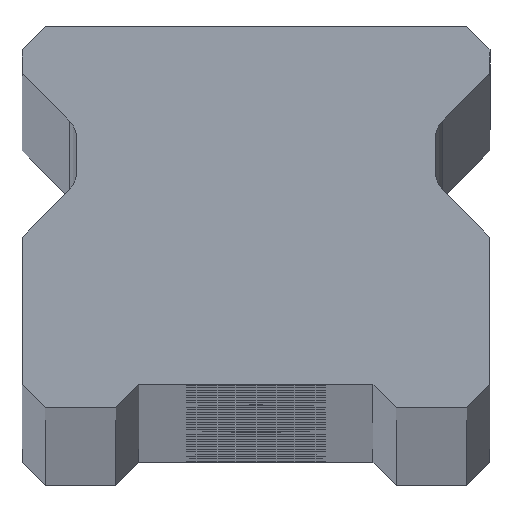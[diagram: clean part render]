
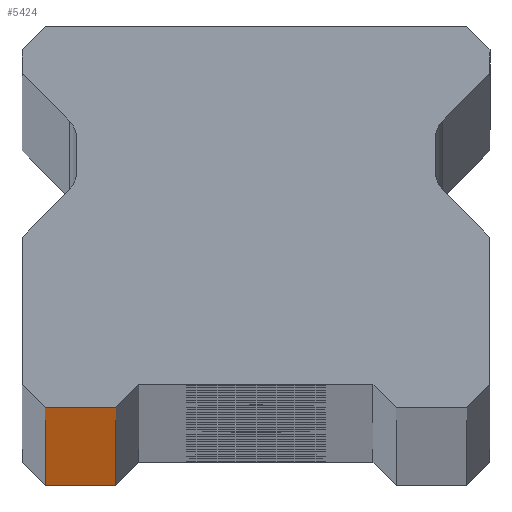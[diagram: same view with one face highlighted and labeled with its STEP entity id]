
A CAD part, top view. The second image highlights one B-rep face of the part: STEP entity #5424.
In plain terms, the highlighted planar face has unit normal (0, -1, 0).
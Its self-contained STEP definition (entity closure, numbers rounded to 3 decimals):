
#338 = VECTOR ( 'NONE', #1417, 1000. ) ;
#504 = AXIS2_PLACEMENT_3D ( 'NONE', #1247, #1818, #2270 ) ;
#589 = CARTESIAN_POINT ( 'NONE',  ( -9., 0., -950. ) ) ;
#804 = CARTESIAN_POINT ( 'NONE',  ( 10., 0., -950. ) ) ;
#878 = ORIENTED_EDGE ( 'NONE', *, *, #1053, .T. ) ;
#1053 = EDGE_CURVE ( 'NONE', #5747, #2373, #4095, .T. ) ;
#1247 = CARTESIAN_POINT ( 'NONE',  ( 10., 0., 950. ) ) ;
#1348 = VECTOR ( 'NONE', #4420, 1000. ) ;
#1417 = DIRECTION ( 'NONE',  ( 1., 0., 0. ) ) ;
#1472 = CARTESIAN_POINT ( 'NONE',  ( -6., 0., 950. ) ) ;
#1741 = CARTESIAN_POINT ( 'NONE',  ( -9., 0., 950. ) ) ;
#1818 = DIRECTION ( 'NONE',  ( 0., 1., 0. ) ) ;
#1948 = ORIENTED_EDGE ( 'NONE', *, *, #3011, .T. ) ;
#2105 = LINE ( 'NONE', #4106, #338 ) ;
#2270 = DIRECTION ( 'NONE',  ( -1., 0., 0. ) ) ;
#2373 = VERTEX_POINT ( 'NONE', #1472 ) ;
#2619 = DIRECTION ( 'NONE',  ( 1., 0., 0. ) ) ;
#2923 = VERTEX_POINT ( 'NONE', #3305 ) ;
#2986 = PLANE ( 'NONE',  #504 ) ;
#2992 = ORIENTED_EDGE ( 'NONE', *, *, #5655, .F. ) ;
#3011 = EDGE_CURVE ( 'NONE', #2923, #5120, #4140, .T. ) ;
#3062 = FACE_OUTER_BOUND ( 'NONE', #3224, .T. ) ;
#3224 = EDGE_LOOP ( 'NONE', ( #5738, #878, #2992, #1948 ) ) ;
#3305 = CARTESIAN_POINT ( 'NONE',  ( -9., 0., 950. ) ) ;
#3616 = CARTESIAN_POINT ( 'NONE',  ( -6., 0., -950. ) ) ;
#3640 = CARTESIAN_POINT ( 'NONE',  ( -6., 0., -950. ) ) ;
#4095 = LINE ( 'NONE', #3616, #5293 ) ;
#4097 = DIRECTION ( 'NONE',  ( 0., 0., 1. ) ) ;
#4106 = CARTESIAN_POINT ( 'NONE',  ( 10., 0., 950. ) ) ;
#4110 = LINE ( 'NONE', #804, #4751 ) ;
#4140 = LINE ( 'NONE', #1741, #1348 ) ;
#4420 = DIRECTION ( 'NONE',  ( 0., 0., -1. ) ) ;
#4751 = VECTOR ( 'NONE', #2619, 1000. ) ;
#5120 = VERTEX_POINT ( 'NONE', #589 ) ;
#5293 = VECTOR ( 'NONE', #4097, 1000. ) ;
#5385 = EDGE_CURVE ( 'NONE', #5120, #5747, #4110, .T. ) ;
#5424 = ADVANCED_FACE ( 'NONE', ( #3062 ), #2986, .F. ) ;
#5655 = EDGE_CURVE ( 'NONE', #2923, #2373, #2105, .T. ) ;
#5738 = ORIENTED_EDGE ( 'NONE', *, *, #5385, .T. ) ;
#5747 = VERTEX_POINT ( 'NONE', #3640 ) ;
